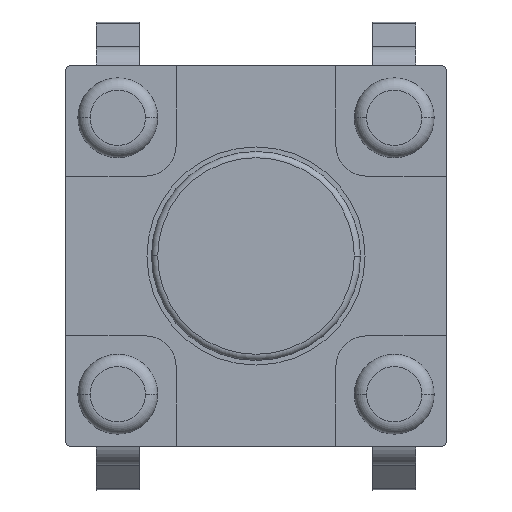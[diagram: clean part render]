
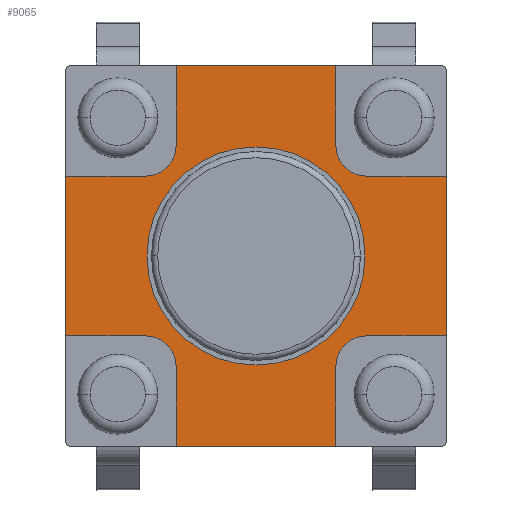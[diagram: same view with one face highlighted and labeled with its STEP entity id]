
A CAD part, front view. The second image highlights one B-rep face of the part: STEP entity #9065.
In plain terms, the highlighted planar face has unit normal (0, -1, 0).
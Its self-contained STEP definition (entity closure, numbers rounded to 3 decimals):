
#7880=CARTESIAN_POINT('',(0.,-1.8,0.));
#7881=DIRECTION('',(0.,-1.,0.));
#7882=DIRECTION('',(-1.,0.,0.));
#7883=AXIS2_PLACEMENT_3D('',#7880,#7881,#7882);
#7888=CARTESIAN_POINT('',(0.,-1.8,0.));
#7889=DIRECTION('',(0.,-1.,0.));
#7890=DIRECTION('',(1.,0.,0.));
#7891=AXIS2_PLACEMENT_3D('',#7888,#7889,#7890);
#7896=DIRECTION('',(0.,0.,1.));
#7897=VECTOR('',#7896,1.3);
#7898=CARTESIAN_POINT('',(-1.3,-1.8,-3.1));
#7899=LINE('',#7898,#7897);
#7903=DIRECTION('',(1.,0.,0.));
#7904=VECTOR('',#7903,1.3);
#7905=CARTESIAN_POINT('',(-3.1,-1.8,-1.3));
#7906=LINE('',#7905,#7904);
#7910=DIRECTION('',(0.,0.,1.));
#7911=VECTOR('',#7910,2.6);
#7912=CARTESIAN_POINT('',(-3.1,-1.8,-1.3));
#7913=LINE('',#7912,#7911);
#7917=DIRECTION('',(1.,0.,0.));
#7918=VECTOR('',#7917,1.3);
#7919=CARTESIAN_POINT('',(-3.1,-1.8,1.3));
#7920=LINE('',#7919,#7918);
#7924=DIRECTION('',(0.,0.,-1.));
#7925=VECTOR('',#7924,1.3);
#7926=CARTESIAN_POINT('',(-1.3,-1.8,3.1));
#7927=LINE('',#7926,#7925);
#7931=DIRECTION('',(1.,0.,0.));
#7932=VECTOR('',#7931,2.6);
#7933=CARTESIAN_POINT('',(-1.3,-1.8,3.1));
#7934=LINE('',#7933,#7932);
#7938=DIRECTION('',(0.,0.,-1.));
#7939=VECTOR('',#7938,1.3);
#7940=CARTESIAN_POINT('',(1.3,-1.8,3.1));
#7941=LINE('',#7940,#7939);
#7945=DIRECTION('',(-1.,0.,0.));
#7946=VECTOR('',#7945,1.3);
#7947=CARTESIAN_POINT('',(3.1,-1.8,1.3));
#7948=LINE('',#7947,#7946);
#7952=DIRECTION('',(0.,0.,-1.));
#7953=VECTOR('',#7952,2.6);
#7954=CARTESIAN_POINT('',(3.1,-1.8,1.3));
#7955=LINE('',#7954,#7953);
#7959=DIRECTION('',(-1.,0.,0.));
#7960=VECTOR('',#7959,1.3);
#7961=CARTESIAN_POINT('',(3.1,-1.8,-1.3));
#7962=LINE('',#7961,#7960);
#7966=DIRECTION('',(0.,0.,1.));
#7967=VECTOR('',#7966,1.3);
#7968=CARTESIAN_POINT('',(1.3,-1.8,-3.1));
#7969=LINE('',#7968,#7967);
#7973=DIRECTION('',(-1.,0.,0.));
#7974=VECTOR('',#7973,2.6);
#7975=CARTESIAN_POINT('',(1.3,-1.8,-3.1));
#7976=LINE('',#7975,#7974);
#7987=CARTESIAN_POINT('',(-1.8,-1.8,-1.8));
#7988=DIRECTION('',(0.,1.,0.));
#7989=DIRECTION('',(0.,0.,1.));
#7990=AXIS2_PLACEMENT_3D('',#7987,#7988,#7989);
#8284=CARTESIAN_POINT('',(1.8,-1.8,-1.8));
#8285=DIRECTION('',(0.,1.,0.));
#8286=DIRECTION('',(-1.,0.,0.));
#8287=AXIS2_PLACEMENT_3D('',#8284,#8285,#8286);
#8348=CARTESIAN_POINT('',(1.8,-1.8,1.8));
#8349=DIRECTION('',(0.,1.,0.));
#8350=DIRECTION('',(0.,0.,-1.));
#8351=AXIS2_PLACEMENT_3D('',#8348,#8349,#8350);
#8454=CARTESIAN_POINT('',(-1.8,-1.8,1.8));
#8455=DIRECTION('',(0.,1.,0.));
#8456=DIRECTION('',(1.,0.,0.));
#8457=AXIS2_PLACEMENT_3D('',#8454,#8455,#8456);
#8704=CARTESIAN_POINT('',(-1.775,-1.8,0.));
#8705=CARTESIAN_POINT('',(1.775,-1.8,0.));
#8706=VERTEX_POINT('',#8704);
#8707=VERTEX_POINT('',#8705);
#8772=CARTESIAN_POINT('',(1.3,-1.8,3.1));
#8774=VERTEX_POINT('',#8772);
#8776=CARTESIAN_POINT('',(-1.3,-1.8,3.1));
#8778=VERTEX_POINT('',#8776);
#8780=CARTESIAN_POINT('',(3.1,-1.8,1.3));
#8782=VERTEX_POINT('',#8780);
#8784=CARTESIAN_POINT('',(3.1,-1.8,-1.3));
#8786=VERTEX_POINT('',#8784);
#8788=CARTESIAN_POINT('',(1.3,-1.8,-3.1));
#8790=VERTEX_POINT('',#8788);
#8792=CARTESIAN_POINT('',(-1.3,-1.8,-3.1));
#8794=VERTEX_POINT('',#8792);
#8796=CARTESIAN_POINT('',(-3.1,-1.8,1.3));
#8798=VERTEX_POINT('',#8796);
#8800=CARTESIAN_POINT('',(-3.1,-1.8,-1.3));
#8802=VERTEX_POINT('',#8800);
#8808=CARTESIAN_POINT('',(1.3,-1.8,-1.8));
#8809=VERTEX_POINT('',#8808);
#8810=CARTESIAN_POINT('',(1.8,-1.8,-1.3));
#8811=VERTEX_POINT('',#8810);
#8816=CARTESIAN_POINT('',(-1.8,-1.8,-1.3));
#8817=VERTEX_POINT('',#8816);
#8818=CARTESIAN_POINT('',(-1.3,-1.8,-1.8));
#8819=VERTEX_POINT('',#8818);
#8824=CARTESIAN_POINT('',(-1.3,-1.8,1.8));
#8825=VERTEX_POINT('',#8824);
#8826=CARTESIAN_POINT('',(-1.8,-1.8,1.3));
#8827=VERTEX_POINT('',#8826);
#8832=CARTESIAN_POINT('',(1.8,-1.8,1.3));
#8833=VERTEX_POINT('',#8832);
#8834=CARTESIAN_POINT('',(1.3,-1.8,1.8));
#8835=VERTEX_POINT('',#8834);
#9022=CARTESIAN_POINT('',(0.,-1.8,0.));
#9023=DIRECTION('',(0.,1.,0.));
#9024=DIRECTION('',(-1.,0.,0.));
#9025=AXIS2_PLACEMENT_3D('',#9022,#9023,#9024);
#9026=PLANE('',#9025);
#9028=ORIENTED_EDGE('',*,*,#9027,.T.);
#9030=ORIENTED_EDGE('',*,*,#9029,.F.);
#9032=ORIENTED_EDGE('',*,*,#9031,.F.);
#9034=ORIENTED_EDGE('',*,*,#9033,.T.);
#9036=ORIENTED_EDGE('',*,*,#9035,.T.);
#9038=ORIENTED_EDGE('',*,*,#9037,.F.);
#9040=ORIENTED_EDGE('',*,*,#9039,.F.);
#9042=ORIENTED_EDGE('',*,*,#9041,.T.);
#9044=ORIENTED_EDGE('',*,*,#9043,.T.);
#9046=ORIENTED_EDGE('',*,*,#9045,.F.);
#9048=ORIENTED_EDGE('',*,*,#9047,.F.);
#9050=ORIENTED_EDGE('',*,*,#9049,.T.);
#9052=ORIENTED_EDGE('',*,*,#9051,.T.);
#9054=ORIENTED_EDGE('',*,*,#9053,.F.);
#9056=ORIENTED_EDGE('',*,*,#9055,.F.);
#9058=ORIENTED_EDGE('',*,*,#9057,.T.);
#9059=EDGE_LOOP('',(#9028,#9030,#9032,#9034,#9036,#9038,#9040,#9042,#9044,#9046,
#9048,#9050,#9052,#9054,#9056,#9058));
#9060=FACE_OUTER_BOUND('',#9059,.F.);
#9061=ORIENTED_EDGE('',*,*,#9002,.T.);
#9062=ORIENTED_EDGE('',*,*,#9016,.T.);
#9063=EDGE_LOOP('',(#9061,#9062));
#9064=FACE_BOUND('',#9063,.F.);
#7884=CIRCLE('',#7883,1.775);
#7892=CIRCLE('',#7891,1.775);
#7991=CIRCLE('',#7990,0.5);
#8288=CIRCLE('',#8287,0.5);
#8352=CIRCLE('',#8351,0.5);
#8458=CIRCLE('',#8457,0.5);
#9002=EDGE_CURVE('',#8706,#8707,#7884,.T.);
#9016=EDGE_CURVE('',#8707,#8706,#7892,.T.);
#9027=EDGE_CURVE('',#8794,#8819,#7899,.T.);
#9029=EDGE_CURVE('',#8817,#8819,#7991,.T.);
#9031=EDGE_CURVE('',#8802,#8817,#7906,.T.);
#9033=EDGE_CURVE('',#8802,#8798,#7913,.T.);
#9035=EDGE_CURVE('',#8798,#8827,#7920,.T.);
#9037=EDGE_CURVE('',#8825,#8827,#8458,.T.);
#9039=EDGE_CURVE('',#8778,#8825,#7927,.T.);
#9041=EDGE_CURVE('',#8778,#8774,#7934,.T.);
#9043=EDGE_CURVE('',#8774,#8835,#7941,.T.);
#9045=EDGE_CURVE('',#8833,#8835,#8352,.T.);
#9047=EDGE_CURVE('',#8782,#8833,#7948,.T.);
#9049=EDGE_CURVE('',#8782,#8786,#7955,.T.);
#9051=EDGE_CURVE('',#8786,#8811,#7962,.T.);
#9053=EDGE_CURVE('',#8809,#8811,#8288,.T.);
#9055=EDGE_CURVE('',#8790,#8809,#7969,.T.);
#9057=EDGE_CURVE('',#8790,#8794,#7976,.T.);
#9065=ADVANCED_FACE('',(#9060,#9064),#9026,.F.);
